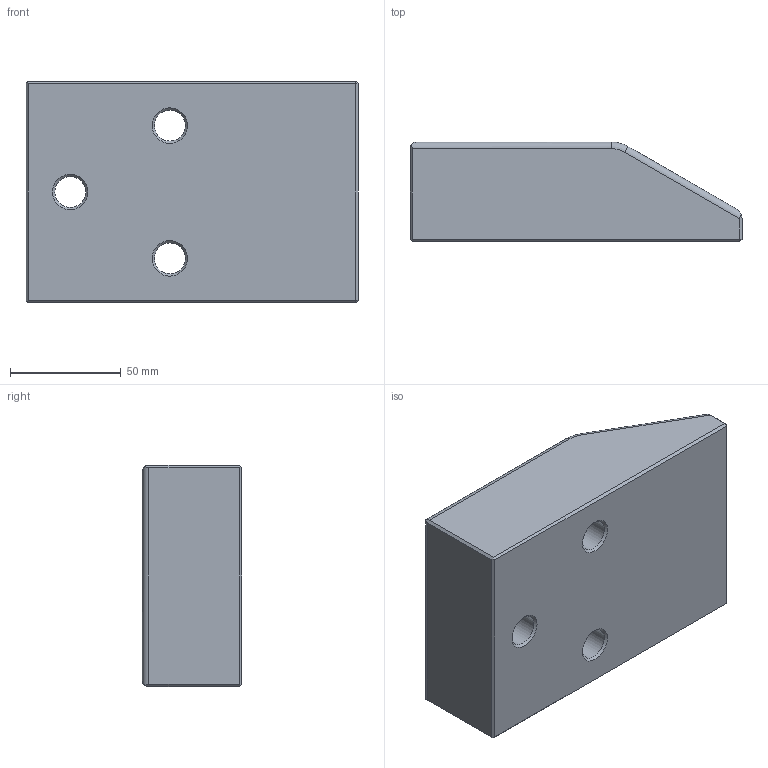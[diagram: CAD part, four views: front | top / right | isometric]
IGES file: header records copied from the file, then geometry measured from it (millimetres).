
Global section: file name: CA10.10045150.ipt; native system: Autodesk Inventor 2021; preprocessor: unknown; author: SM; date: 20211208.185040; units: millimetre
Bounding box: 150 x 45 x 100 mm (x, y, z)
Volume: 550646.9 mm3; surface area: 53859.3 mm2
Topology: 1 solids, 1 shells, 41 faces, 104 edges, 68 vertices
Faces by surface type: plane 20, revolution 14, cylinder 7
